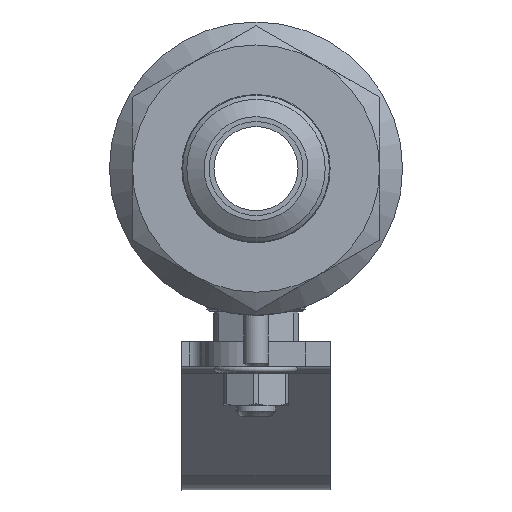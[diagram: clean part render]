
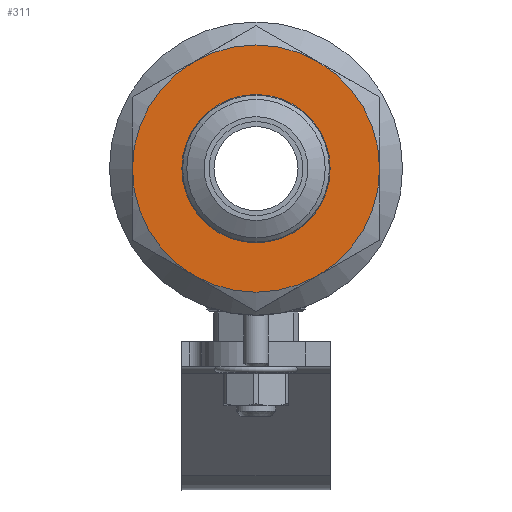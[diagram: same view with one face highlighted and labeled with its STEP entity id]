
A CAD part, left-side view. The second image highlights one B-rep face of the part: STEP entity #311.
In plain terms, the highlighted planar face has unit normal (-1, 0, 0).
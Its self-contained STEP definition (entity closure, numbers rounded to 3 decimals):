
#311=ADVANCED_FACE('',(#2648,#2650),#2652,.T.);
#2648=FACE_BOUND('',#2649,.T.);
#2649=EDGE_LOOP('',(#3821));
#2650=FACE_OUTER_BOUND('',#2651,.T.);
#2651=EDGE_LOOP('',(#3822,#3823,#3824,#3825,#3826,#3827));
#2652=PLANE('',#2653);
#2653=AXIS2_PLACEMENT_3D('',#2654,#2655,#2656);
#2654=CARTESIAN_POINT('',(-82.9,0.,0.));
#2655=DIRECTION('',(-1.,0.,0.));
#2656=DIRECTION('',(0.,0.866,-0.5));
#3821=ORIENTED_EDGE('',*,*,#4758,.T.);
#3822=ORIENTED_EDGE('',*,*,#4745,.F.);
#3823=ORIENTED_EDGE('',*,*,#4754,.F.);
#3824=ORIENTED_EDGE('',*,*,#4752,.F.);
#3825=ORIENTED_EDGE('',*,*,#4750,.F.);
#3826=ORIENTED_EDGE('',*,*,#4749,.F.);
#3827=ORIENTED_EDGE('',*,*,#4746,.F.);
#4745=EDGE_CURVE('',#5529,#5494,#5543,.T.);
#4746=EDGE_CURVE('',#5494,#5501,#5544,.T.);
#4749=EDGE_CURVE('',#5501,#5508,#5547,.T.);
#4750=EDGE_CURVE('',#5508,#5515,#5548,.T.);
#4752=EDGE_CURVE('',#5515,#5522,#5550,.T.);
#4754=EDGE_CURVE('',#5522,#5529,#5552,.T.);
#4758=EDGE_CURVE('',#5557,#5557,#5558,.T.);
#5494=VERTEX_POINT('',#9521);
#5501=VERTEX_POINT('',#9583);
#5508=VERTEX_POINT('',#9645);
#5515=VERTEX_POINT('',#9707);
#5522=VERTEX_POINT('',#9769);
#5529=VERTEX_POINT('',#9831);
#5543=CIRCLE('',#9915,25.);
#5544=CIRCLE('',#9919,25.);
#5547=CIRCLE('',#9931,25.);
#5548=CIRCLE('',#9935,25.);
#5550=CIRCLE('',#9943,25.);
#5552=CIRCLE('',#9951,25.);
#5557=VERTEX_POINT('',#9967);
#5558=CIRCLE('',#9968,15.);
#9521=CARTESIAN_POINT('',(-82.9,12.5,-21.651));
#9583=CARTESIAN_POINT('',(-82.9,25.,0.));
#9645=CARTESIAN_POINT('',(-82.9,12.5,21.651));
#9707=CARTESIAN_POINT('',(-82.9,-12.5,21.651));
#9769=CARTESIAN_POINT('',(-82.9,-25.,0.));
#9831=CARTESIAN_POINT('',(-82.9,-12.5,-21.651));
#9915=AXIS2_PLACEMENT_3D('',#9916,#9917,#9918);
#9916=CARTESIAN_POINT('',(-82.9,0.,0.));
#9917=DIRECTION('',(1.,0.,0.));
#9918=DIRECTION('',(0.,-0.5,-0.866));
#9919=AXIS2_PLACEMENT_3D('',#9920,#9921,#9922);
#9920=CARTESIAN_POINT('',(-82.9,0.,0.));
#9921=DIRECTION('',(1.,0.,0.));
#9922=DIRECTION('',(0.,0.5,-0.866));
#9931=AXIS2_PLACEMENT_3D('',#9932,#9933,#9934);
#9932=CARTESIAN_POINT('',(-82.9,0.,0.));
#9933=DIRECTION('',(1.,0.,0.));
#9934=DIRECTION('',(0.,1.,0.));
#9935=AXIS2_PLACEMENT_3D('',#9936,#9937,#9938);
#9936=CARTESIAN_POINT('',(-82.9,0.,0.));
#9937=DIRECTION('',(1.,0.,0.));
#9938=DIRECTION('',(0.,0.5,0.866));
#9943=AXIS2_PLACEMENT_3D('',#9944,#9945,#9946);
#9944=CARTESIAN_POINT('',(-82.9,0.,0.));
#9945=DIRECTION('',(1.,0.,0.));
#9946=DIRECTION('',(0.,-0.5,0.866));
#9951=AXIS2_PLACEMENT_3D('',#9952,#9953,#9954);
#9952=CARTESIAN_POINT('',(-82.9,0.,0.));
#9953=DIRECTION('',(1.,0.,0.));
#9954=DIRECTION('',(0.,-1.,0.));
#9967=CARTESIAN_POINT('',(-82.9,15.,0.));
#9968=AXIS2_PLACEMENT_3D('',#9969,#9970,#9971);
#9969=CARTESIAN_POINT('',(-82.9,0.,0.));
#9970=DIRECTION('',(1.,0.,0.));
#9971=DIRECTION('',(0.,1.,0.));
